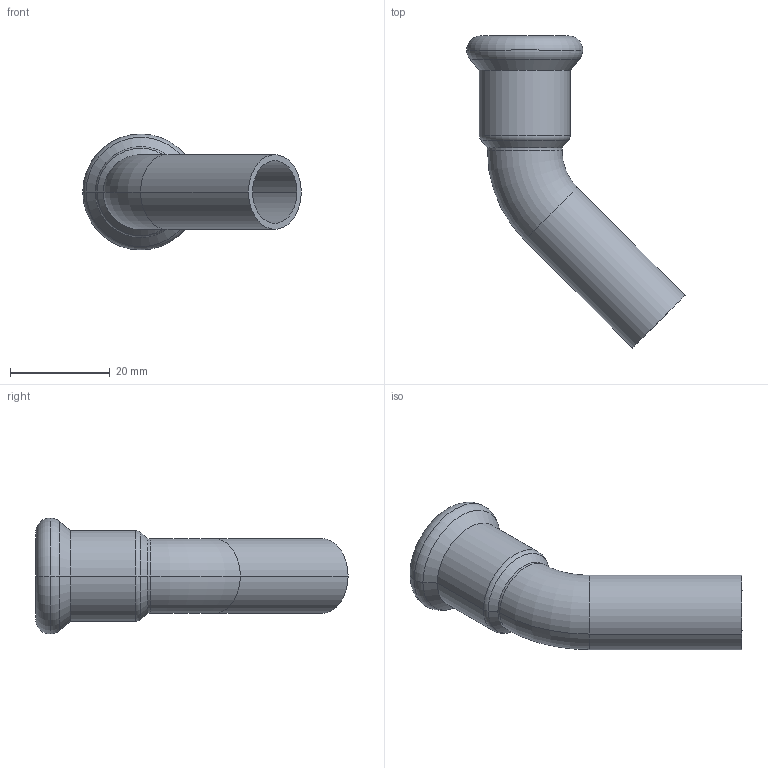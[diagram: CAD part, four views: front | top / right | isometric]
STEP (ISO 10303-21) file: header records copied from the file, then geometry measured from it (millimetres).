
FILE_DESCRIPTION(('CoCreate Modeling STEP Export'),'2;1');
FILE_NAME('C1412 15x15.stp','2014-11-11T16:39:07',(''),(''),'CoCreate Modeling STEP processor for AP214 (Solid Model)','CoCreate Modeling 17.00A 17-Jun-2010 (C) Parametric Technology GmbH','');
FILE_SCHEMA(('AUTOMOTIVE_DESIGN { 1 0 10303 214 1 1 1 1 }'));
Length unit declared in the file: millimetre
Products named in the file (2): C1412_15x15
Assembly tree (1 placements, depth 2):
  C1412_15x15
    C1412_15x15
Bounding box: 43.89 x 62.74 x 23.3 mm (x, y, z)
Volume: 4938.4 mm3; surface area: 6742.2 mm2
Topology: 1 solids, 1 shells, 32 faces, 67 edges, 39 vertices
Faces by surface type: cylinder 14, torus 10, plane 4, cone 4
Entity records: 743 total; most frequent: ORIENTED_EDGE 134, DIRECTION 116, CARTESIAN_POINT 106, EDGE_CURVE 67, AXIS2_PLACEMENT_3D 49, VERTEX_POINT 39, EDGE_LOOP 36, FACE_OUTER_BOUND 32
